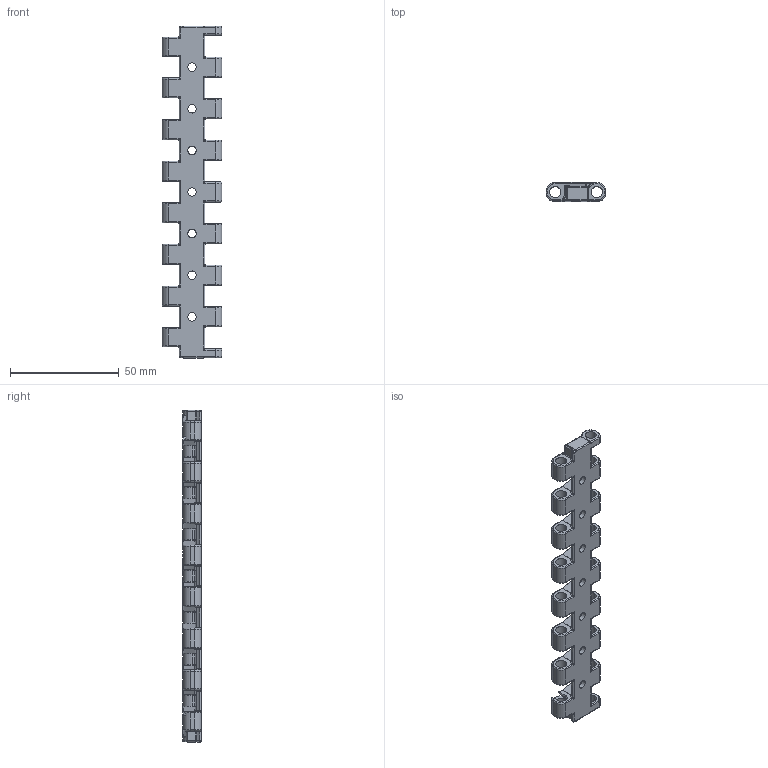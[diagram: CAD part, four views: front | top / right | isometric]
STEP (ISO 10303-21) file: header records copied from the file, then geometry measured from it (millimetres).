
FILE_DESCRIPTION((''),'2;1');
FILE_NAME('P139','2012-11-09T',('jas'),(''),'PRO/ENGINEER BY PARAMETRIC TECHNOLOGY CORPORATION, 2012230','PRO/ENGINEER BY PARAMETRIC TECHNOLOGY CORPORATION, 2012230','');
FILE_SCHEMA(('CONFIG_CONTROL_DESIGN'));
Products named in the file (1): P139
Bounding box: 27.53 x 8.5 x 152.4 mm (x, y, z)
Volume: 11591.1 mm3; surface area: 13183 mm2
Topology: 1 solids, 1 shells, 1318 faces, 3081 edges, 1774 vertices
Faces by surface type: cylinder 542, plane 268, torus 250, bspline 172, sphere 84, cone 2
Entity records: 51486 total; most frequent: CARTESIAN_POINT 22458, ORIENTED_EDGE 6162, DIRECTION 6071, EDGE_CURVE 3081, AXIS2_PLACEMENT_3D 2472, VERTEX_POINT 1774, EDGE_LOOP 1375, CIRCLE 1326
